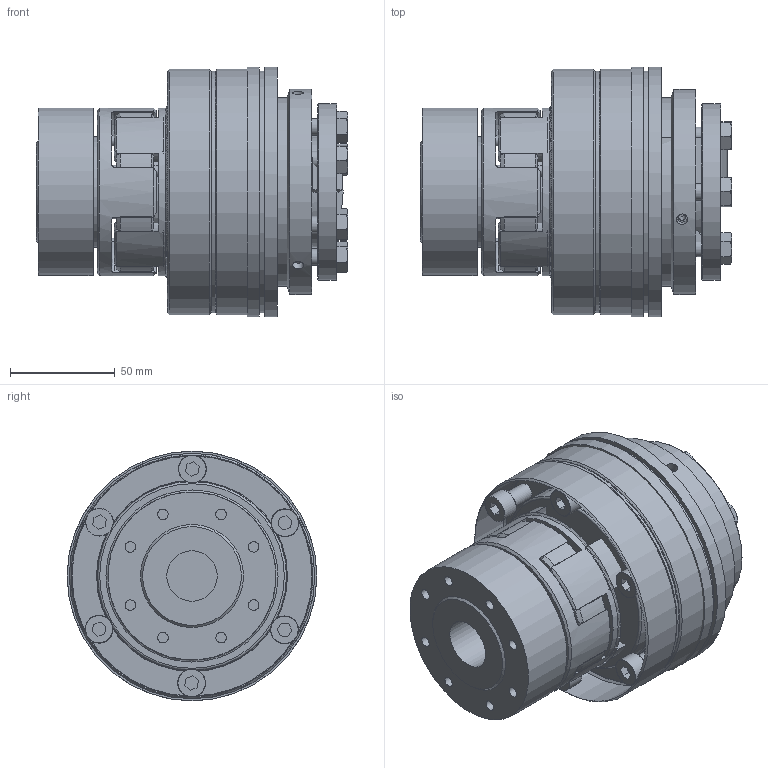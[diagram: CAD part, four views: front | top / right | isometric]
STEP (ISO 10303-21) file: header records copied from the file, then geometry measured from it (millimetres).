
FILE_DESCRIPTION( ( 'Unknown' ), '1' );
FILE_NAME( 'C:/Dokumente und Einstellungen/Sven/Desktop/hp kbk/E-AI/KBK EAI-38-144.stp', 'Unknown', ( 'Unknown' ), ( 'Unknown' ), 'XStep 1.0', 'Unknown', ' ' );
FILE_SCHEMA( ( 'automotive_design' ) );
Length unit declared in the file: millimetre
Products named in the file (19): Assem1; Assem2; Assem3; Assem4; Zylinderschraube DIN 912_2; ball_bearing_-_6011_0_01; ball_bearing_-_6011_0_02; ball_bearing_-_6011_0_03; Kupplung L-I-300 Grundkörper; Konusbuchse 300; Stellring 300; Druckring 300; Flansch 300; a_55; din_en_24017_m8x30; Elastomerflansch 38; Zahnkranz_38_Standard; KBE3-38_Druckring; KBE3 C - 38 Nabe
Bounding box: 148.3 x 119 x 119 mm (x, y, z)
Volume: 1706450.5 mm3; surface area: 545688.3 mm2
Topology: 44 solids, 44 shells, 1105 faces, 2506 edges, 1600 vertices
Faces by surface type: cylinder 386, plane 365, cone 298, torus 56
Full cylindrical faces by diameter (mm): 2.5 x4, 3.242 x6, 4.917 x8, 5 x32, 5.2 x6, 6.5 x16, 6.647 x30, 8 x15, 8.2 x12, 8.5 x12, 11 x16, 11.63 x7, 13 x8, 13.2 x12, 24 x2, 25 x4, 38 x4, 40 x2, 46 x2, 48 x2, 52 x4, 53 x2, 55 x7, 66.3 x6, 76 x6, 79.1 x6, 80 x6, 83.5 x2, 84 x2, 88 x2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
Entity records: 12966 total; most frequent: CARTESIAN_POINT 2780, DIRECTION 2196, ORIENTED_EDGE 1634, AXIS2_PLACEMENT_3D 1031, EDGE_CURVE 817, EDGE_LOOP 758, VERTEX_POINT 605, FACE_OUTER_BOUND 579
